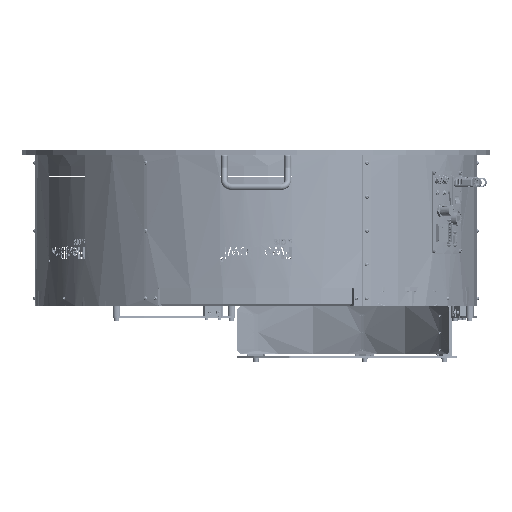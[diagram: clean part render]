
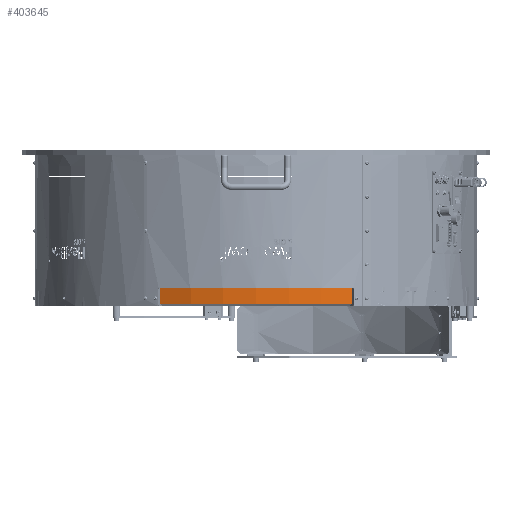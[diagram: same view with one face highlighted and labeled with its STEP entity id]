
A CAD part, front view. The second image highlights one B-rep face of the part: STEP entity #403645.
In plain terms, the highlighted cylindrical face has radius 420 mm (diameter 840 mm), a partial arc.
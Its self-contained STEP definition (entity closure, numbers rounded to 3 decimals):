
#3085 = VERTEX_POINT ( 'NONE', #326363 ) ;
#31168 = EDGE_CURVE ( 'NONE', #290065, #45435, #153077, .T. ) ;
#39723 = DIRECTION ( 'NONE',  ( 0., 0., 1. ) ) ;
#45435 = VERTEX_POINT ( 'NONE', #313694 ) ;
#98161 = FACE_OUTER_BOUND ( 'NONE', #432325, .T. ) ;
#98518 = DIRECTION ( 'NONE',  ( 0., 0., 1. ) ) ;
#101523 = CARTESIAN_POINT ( 'NONE',  ( -183.292, 377.894, -40. ) ) ;
#122272 = LINE ( 'NONE', #438262, #424508 ) ;
#122522 = DIRECTION ( 'NONE',  ( 0., 0., 1. ) ) ;
#131799 = ORIENTED_EDGE ( 'NONE', *, *, #202907, .F. ) ;
#141578 = CIRCLE ( 'NONE', #228740, 420. ) ;
#146715 = CYLINDRICAL_SURFACE ( 'NONE', #253915, 420. ) ;
#153077 = LINE ( 'NONE', #101523, #229348 ) ;
#194387 = VERTEX_POINT ( 'NONE', #291840 ) ;
#198336 = CARTESIAN_POINT ( 'NONE',  ( 0., 0., -40. ) ) ;
#202907 = EDGE_CURVE ( 'NONE', #194387, #45435, #412852, .T. ) ;
#228740 = AXIS2_PLACEMENT_3D ( 'NONE', #265214, #122522, #456510 ) ;
#229348 = VECTOR ( 'NONE', #98518, 1000. ) ;
#238638 = ORIENTED_EDGE ( 'NONE', *, *, #541732, .F. ) ;
#253915 = AXIS2_PLACEMENT_3D ( 'NONE', #198336, #383531, #283399 ) ;
#265214 = CARTESIAN_POINT ( 'NONE',  ( 0., 0., -35.776 ) ) ;
#283399 = DIRECTION ( 'NONE',  ( 1., 0., 0. ) ) ;
#290065 = VERTEX_POINT ( 'NONE', #319688 ) ;
#291840 = CARTESIAN_POINT ( 'NONE',  ( 183.292, 377.894, 0. ) ) ;
#312966 = DIRECTION ( 'NONE',  ( 1., 0., 0. ) ) ;
#313694 = CARTESIAN_POINT ( 'NONE',  ( -183.292, 377.894, 0. ) ) ;
#319688 = CARTESIAN_POINT ( 'NONE',  ( -183.292, 377.894, -35.776 ) ) ;
#326363 = CARTESIAN_POINT ( 'NONE',  ( 183.292, 377.894, -35.776 ) ) ;
#353146 = DIRECTION ( 'NONE',  ( 0., 0., 1. ) ) ;
#374337 = AXIS2_PLACEMENT_3D ( 'NONE', #461748, #39723, #312966 ) ;
#383531 = DIRECTION ( 'NONE',  ( 0., 0., 1. ) ) ;
#403645 = ADVANCED_FACE ( 'NONE', ( #98161 ), #146715, .T. ) ;
#412852 = CIRCLE ( 'NONE', #374337, 420. ) ;
#424508 = VECTOR ( 'NONE', #353146, 1000. ) ;
#432325 = EDGE_LOOP ( 'NONE', ( #238638, #435491, #471788, #131799 ) ) ;
#435491 = ORIENTED_EDGE ( 'NONE', *, *, #454690, .T. ) ;
#438262 = CARTESIAN_POINT ( 'NONE',  ( 183.292, 377.894, -40. ) ) ;
#454690 = EDGE_CURVE ( 'NONE', #3085, #290065, #141578, .T. ) ;
#456510 = DIRECTION ( 'NONE',  ( 1., 0., 0. ) ) ;
#461748 = CARTESIAN_POINT ( 'NONE',  ( 0., 0., 0. ) ) ;
#471788 = ORIENTED_EDGE ( 'NONE', *, *, #31168, .T. ) ;
#541732 = EDGE_CURVE ( 'NONE', #3085, #194387, #122272, .T. ) ;
